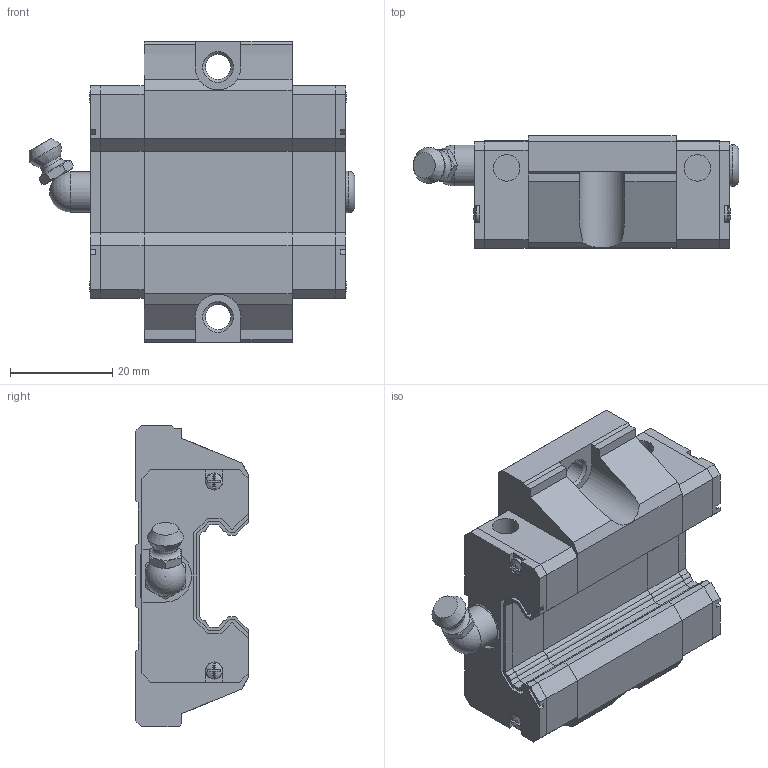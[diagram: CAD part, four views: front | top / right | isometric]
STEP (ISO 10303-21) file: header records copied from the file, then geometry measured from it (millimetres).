
FILE_DESCRIPTION(('FreeCAD Model'),'2;1');
FILE_NAME('Open CASCADE Shape Model','2024-12-05T10:36:43',('Author'),( ''),'Open CASCADE STEP processor 7.6','FreeCAD','Unknown');
FILE_SCHEMA(('AUTOMOTIVE_DESIGN { 1 0 10303 214 1 1 1 1 }'));
Length unit declared in the file: millimetre
Products named in the file (7): EW20SC; _GEW20SC_slider; _GES20_C; _GES20_P; _GH20_SCREW008; _GH20_BOLT002; _GH20-_G002
Assembly tree (11 placements, depth 2):
  EW20SC
    _GEW20SC_slider
    _GES20_C  x2
    _GES20_P  x2
    _GH20_SCREW008  x4
    _GH20_BOLT002
    _GH20-_G002
Bounding box: 63.8 x 22 x 59 mm (x, y, z)
Volume: 41437.2 mm3; surface area: 17649.2 mm2
Topology: 11 solids, 11 shells, 403 faces, 1082 edges, 711 vertices
Faces by surface type: plane 320, cylinder 51, cone 20, torus 6, sphere 5, bspline 1
Full cylindrical faces by diameter (mm): 2.3 x4, 3.414 x4, 4.5 x1, 4.917 x2, 5.2 x4, 6 x2, 6.5 x2, 7.2 x2, 8 x1, 8.2 x1
Entity records: 7824 total; most frequent: CARTESIAN_POINT 1523, ORIENTED_EDGE 1292, DIRECTION 1202, EDGE_CURVE 646, LINE 482, VECTOR 482, VERTEX_POINT 423, AXIS2_PLACEMENT_3D 360
